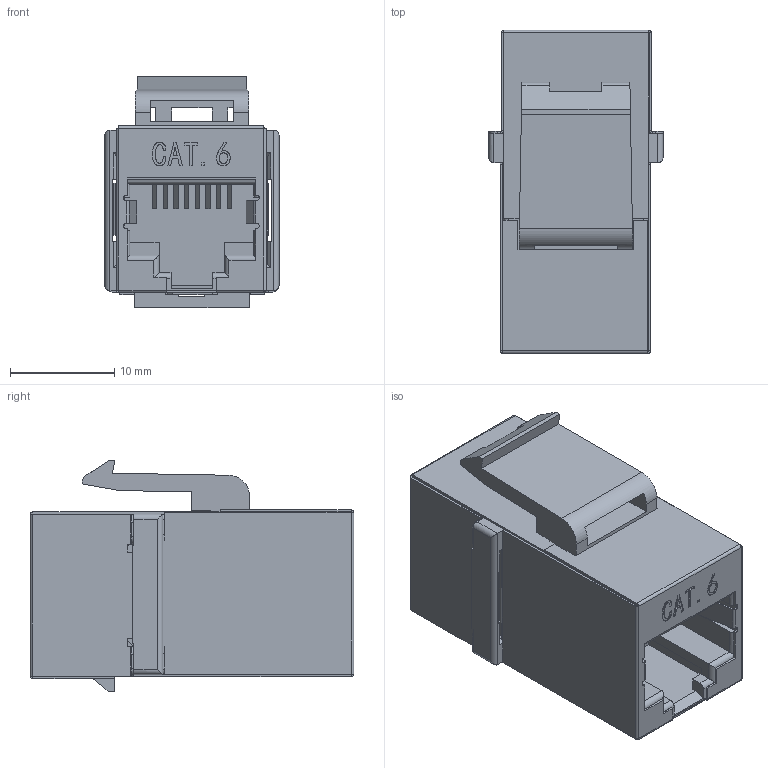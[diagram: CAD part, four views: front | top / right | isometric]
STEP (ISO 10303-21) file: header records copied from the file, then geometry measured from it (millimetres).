
FILE_DESCRIPTION((''),'2;1');
FILE_NAME('CAT60001_ASM','2024-06-17T11:11:27',('DGKYD'),(''),'CREO PARAMETRIC BY PTC INC, 2019010','CREO PARAMETRIC BY PTC INC, 2019010','');
FILE_SCHEMA(('CONFIG_CONTROL_DESIGN'));
Length unit declared in the file: millimetre
Products named in the file (4): _X2_30C081DF50AC_X0_; _X2_03A481DF50AC30C06E8550AC_X0; ADMI3CC8499C79Z9_ASM; CAT60001_ASM
Assembly tree (3 placements, depth 3):
  CAT60001_ASM
    ADMI3CC8499C79Z9_ASM
      _X2_30C081DF50AC_X0_
      _X2_03A481DF50AC30C06E8550AC_X0
Bounding box: 16.72 x 31 x 22.21 mm (x, y, z)
Volume: 4900.1 mm3; surface area: 8842.6 mm2
Topology: 2 solids, 2 shells, 1765 faces, 4994 edges, 3211 vertices
Faces by surface type: plane 1405, cylinder 252, extrusion 104, bspline 2, torus 2
Entity records: 58544 total; most frequent: CARTESIAN_POINT 12853, ORIENTED_EDGE 9988, DIRECTION 8564, EDGE_CURVE 4994, VECTOR 4340, LINE 4236, VERTEX_POINT 3211, AXIS2_PLACEMENT_3D 2112
